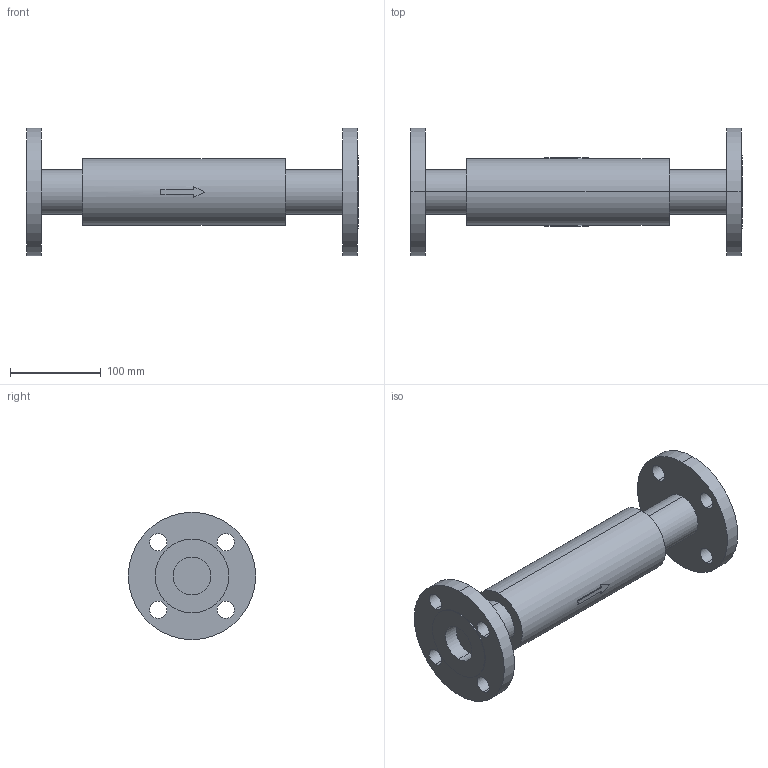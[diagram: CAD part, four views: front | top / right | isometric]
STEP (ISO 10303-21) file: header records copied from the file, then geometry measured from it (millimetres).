
FILE_DESCRIPTION( (''), '2;1');
FILE_NAME ('PC1276.11140.EB-1J 40A_779.stp','2025-06-09T15:34:51',(''),(''),'spGate 20.6.3 (****-****-****-****)','','');
FILE_SCHEMA (('AUTOMOTIVE_DESIGN'));
Length unit declared in the file: millimetre
Bounding box: 365 x 140 x 140 mm (x, y, z)
Volume: 1559019.5 mm3; surface area: 152696 mm2
Topology: 1 solids, 1 shells, 60 faces, 146 edges, 98 vertices
Faces by surface type: cylinder 34, plane 26
Entity records: 2989 total; most frequent: CARTESIAN_POINT 346, DIRECTION 304, ORIENTED_EDGE 292, COLOUR_RGB 207, PRESENTATION_STYLE_ASSIGNMENT 207, STYLED_ITEM 207, EDGE_CURVE 146, DRAUGHTING_PRE_DEFINED_CURVE_FONT 146
